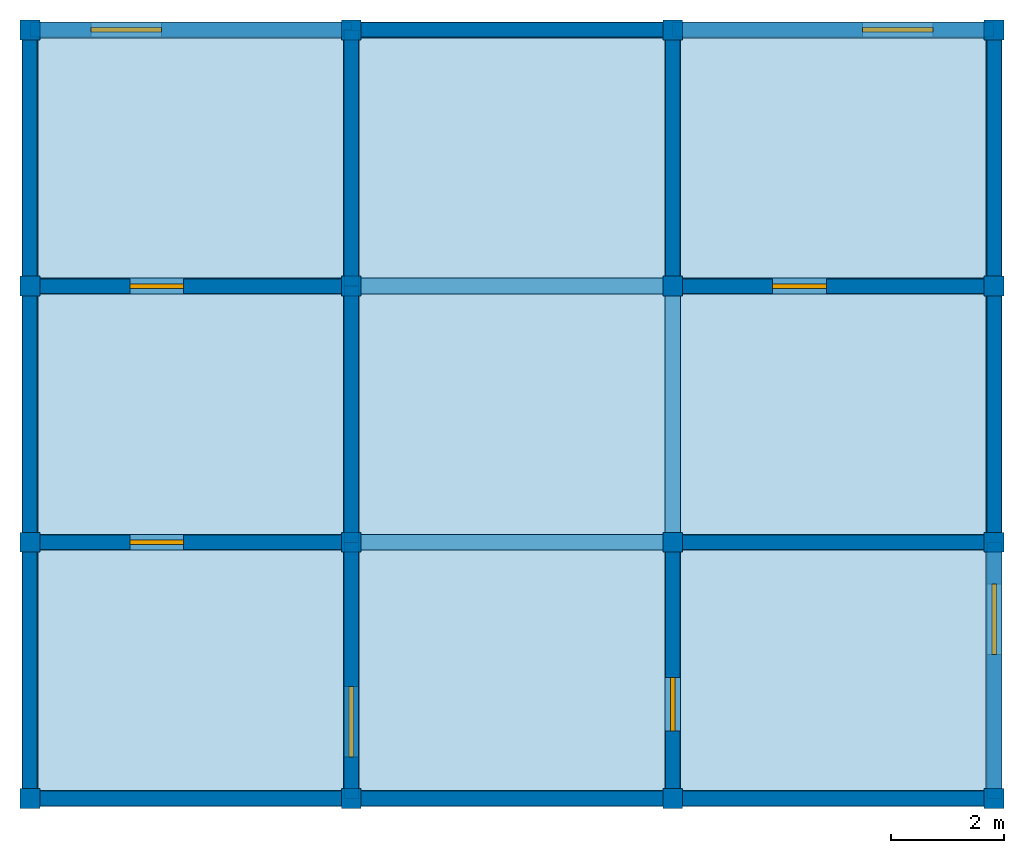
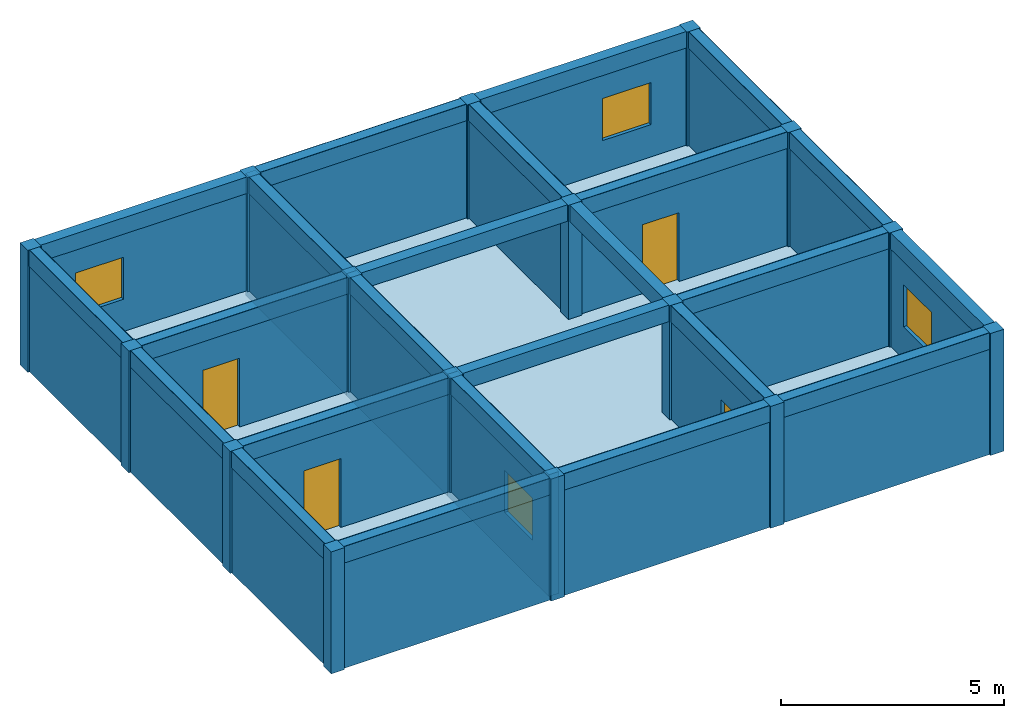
# One storey: 24 beams, 24 walls, 16 columns, 4 doors, 4 windows, 1 slab, 8 openings.
"""IFC4X3 building model written with IfcOpenShell, lengths in metres."""

from ifc_helpers import new_model, si_unit, frame, origin_with_axes, origin_2d, place, context, project, spatial, rectangle, extrude, material, element, fill, save


model = new_model("IFC4X3")

# Units and contexts
model_context = context("Model", 3, precision=1e-05, world=origin_with_axes())
ifc_project = project(units=[si_unit("LENGTHUNIT", "METRE"), si_unit("AREAUNIT", "SQUARE_METRE"), si_unit("VOLUMEUNIT", "CUBIC_METRE")], contexts=[model_context])

# Site, building, storey
site = spatial("IfcSite", under=ifc_project, Name="Valdivia Parcel", CompositionType="ELEMENT")
building = spatial("IfcBuilding", under=site, Name="Strata Block", CompositionType="ELEMENT")
storey = spatial("IfcBuildingStorey", under=building, Name="Level 9", CompositionType="ELEMENT", Elevation=26.68)

# Columns
ifc_material_1 = material(Name="Timber")
column_1_placement = place(None, frame((-8.525, -6.795, 26.683), z_axis=(0.0, 0.0, 1.0), x_axis=(1.0, 0.0, 0.0)))
element("IfcColumn", 1, at=column_1_placement, inside=storey, material=ifc_material_1, Name="Column 9.1", ObjectType="Core Column", PredefinedType="NOTDEFINED", context=model_context, shape_type="SweptSolid", body=[
    extrude(rectangle(XDim=0.35, YDim=0.35, at=origin_2d()), origin_with_axes(), (0.0, 0.0, 1.0), 3.335),
])
column_2_placement = place(None, frame((-8.525, -2.265, 26.683), z_axis=(0.0, 0.0, 1.0), x_axis=(1.0, 0.0, 0.0)))
element("IfcColumn", 2, at=column_2_placement, inside=storey, material=ifc_material_1, Name="Column 9.2", ObjectType="Corner Column", PredefinedType="PILASTER", context=model_context, shape_type="SweptSolid", body=[
    extrude(rectangle(XDim=0.35, YDim=0.35, at=origin_2d()), origin_with_axes(), (0.0, 0.0, 1.0), 3.335),
])
column_3_placement = place(None, frame((-8.525, 2.265, 26.683), z_axis=(0.0, 0.0, 1.0), x_axis=(1.0, 0.0, 0.0)))
element("IfcColumn", 3, at=column_3_placement, inside=storey, material=ifc_material_1, Name="Column 9.3", ObjectType="Corner Column", PredefinedType="COLUMN", context=model_context, shape_type="SweptSolid", body=[
    extrude(rectangle(XDim=0.35, YDim=0.35, at=origin_2d()), origin_with_axes(), (0.0, 0.0, 1.0), 3.335),
])
column_4_placement = place(None, frame((-8.525, 6.795, 26.683), z_axis=(0.0, 0.0, 1.0), x_axis=(1.0, 0.0, 0.0)))
element("IfcColumn", 4, at=column_4_placement, inside=storey, material=ifc_material_1, Name="Column 9.4", ObjectType="Structural Column", PredefinedType="PILASTER", context=model_context, shape_type="SweptSolid", body=[
    extrude(rectangle(XDim=0.35, YDim=0.35, at=origin_2d()), origin_with_axes(), (0.0, 0.0, 1.0), 3.335),
])
column_5_placement = place(None, frame((-2.842, -6.795, 26.683), z_axis=(0.0, 0.0, 1.0), x_axis=(1.0, 0.0, 0.0)))
element("IfcColumn", 5, at=column_5_placement, inside=storey, material=ifc_material_1, Name="Column 9.5", ObjectType="Core Column", PredefinedType="COLUMN", context=model_context, shape_type="SweptSolid", body=[
    extrude(rectangle(XDim=0.35, YDim=0.35, at=origin_2d()), origin_with_axes(), (0.0, 0.0, 1.0), 3.335),
])
column_6_placement = place(None, frame((-2.842, -2.265, 26.683), z_axis=(0.0, 0.0, 1.0), x_axis=(1.0, 0.0, 0.0)))
element("IfcColumn", 6, at=column_6_placement, inside=storey, material=ifc_material_1, Name="Column 9.6", ObjectType="Corner Column", PredefinedType="NOTDEFINED", context=model_context, shape_type="SweptSolid", body=[
    extrude(rectangle(XDim=0.35, YDim=0.35, at=origin_2d()), origin_with_axes(), (0.0, 0.0, 1.0), 3.335),
])
column_7_placement = place(None, frame((-2.842, 2.265, 26.683), z_axis=(0.0, 0.0, 1.0), x_axis=(1.0, 0.0, 0.0)))
element("IfcColumn", 7, at=column_7_placement, inside=storey, material=ifc_material_1, Name="Column 9.7", ObjectType="Core Column", PredefinedType="COLUMN", context=model_context, shape_type="SweptSolid", body=[
    extrude(rectangle(XDim=0.35, YDim=0.35, at=origin_2d()), origin_with_axes(), (0.0, 0.0, 1.0), 3.335),
])
column_8_placement = place(None, frame((-2.842, 6.795, 26.683), z_axis=(0.0, 0.0, 1.0), x_axis=(1.0, 0.0, 0.0)))
element("IfcColumn", 8, at=column_8_placement, inside=storey, material=ifc_material_1, Name="Column 9.8", ObjectType="Facade Column", PredefinedType="COLUMN", context=model_context, shape_type="SweptSolid", body=[
    extrude(rectangle(XDim=0.35, YDim=0.35, at=origin_2d()), origin_with_axes(), (0.0, 0.0, 1.0), 3.335),
])
column_9_placement = place(None, frame((2.841, -6.795, 26.683), z_axis=(0.0, 0.0, 1.0), x_axis=(1.0, 0.0, 0.0)))
element("IfcColumn", 9, at=column_9_placement, inside=storey, material=ifc_material_1, Name="Column 9.9", ObjectType="Structural Column", PredefinedType="NOTDEFINED", context=model_context, shape_type="SweptSolid", body=[
    extrude(rectangle(XDim=0.35, YDim=0.35, at=origin_2d()), origin_with_axes(), (0.0, 0.0, 1.0), 3.335),
])
column_10_placement = place(None, frame((2.841, -2.265, 26.683), z_axis=(0.0, 0.0, 1.0), x_axis=(1.0, 0.0, 0.0)))
element("IfcColumn", 10, at=column_10_placement, inside=storey, material=ifc_material_1, Name="Column 9.10", ObjectType="Structural Column", PredefinedType="PILASTER", context=model_context, shape_type="SweptSolid", body=[
    extrude(rectangle(XDim=0.35, YDim=0.35, at=origin_2d()), origin_with_axes(), (0.0, 0.0, 1.0), 3.335),
])
column_11_placement = place(None, frame((2.841, 2.265, 26.683), z_axis=(0.0, 0.0, 1.0), x_axis=(1.0, 0.0, 0.0)))
element("IfcColumn", 11, at=column_11_placement, inside=storey, material=ifc_material_1, Name="Column 9.11", ObjectType="Facade Column", PredefinedType="USERDEFINED", context=model_context, shape_type="SweptSolid", body=[
    extrude(rectangle(XDim=0.35, YDim=0.35, at=origin_2d()), origin_with_axes(), (0.0, 0.0, 1.0), 3.335),
])
column_12_placement = place(None, frame((2.841, 6.795, 26.683), z_axis=(0.0, 0.0, 1.0), x_axis=(1.0, 0.0, 0.0)))
element("IfcColumn", 12, at=column_12_placement, inside=storey, material=ifc_material_1, Name="Column 9.12", ObjectType="Facade Column", PredefinedType="COLUMN", context=model_context, shape_type="SweptSolid", body=[
    extrude(rectangle(XDim=0.35, YDim=0.35, at=origin_2d()), origin_with_axes(), (0.0, 0.0, 1.0), 3.335),
])
column_13_placement = place(None, frame((8.524, -6.795, 26.683), z_axis=(0.0, 0.0, 1.0), x_axis=(1.0, 0.0, 0.0)))
element("IfcColumn", 13, at=column_13_placement, inside=storey, material=ifc_material_1, Name="Column 9.13", ObjectType="Facade Column", PredefinedType="USERDEFINED", context=model_context, shape_type="SweptSolid", body=[
    extrude(rectangle(XDim=0.35, YDim=0.35, at=origin_2d()), origin_with_axes(), (0.0, 0.0, 1.0), 3.335),
])
column_14_placement = place(None, frame((8.524, -2.265, 26.683), z_axis=(0.0, 0.0, 1.0), x_axis=(1.0, 0.0, 0.0)))
element("IfcColumn", 14, at=column_14_placement, inside=storey, material=ifc_material_1, Name="Column 9.14", ObjectType="Structural Column", PredefinedType="USERDEFINED", context=model_context, shape_type="SweptSolid", body=[
    extrude(rectangle(XDim=0.35, YDim=0.35, at=origin_2d()), origin_with_axes(), (0.0, 0.0, 1.0), 3.335),
])
for number, where, z_axis, x_axis, name in (
    (15, (8.524, 2.265, 26.683), (0.0, 0.0, 1.0), (1.0, 0.0, 0.0), "Column 9.15"),
    (16, (8.524, 6.795, 26.683), (0.0, 0.0, 1.0), (1.0, 0.0, 0.0), "Column 9.16"),
):
    element("IfcColumn", number, at=place(None, frame(where, z_axis=z_axis, x_axis=x_axis)), inside=storey, material=ifc_material_1, Name=name, ObjectType="Facade Column", PredefinedType="NOTDEFINED", context=model_context, shape_type="SweptSolid", body=[
        extrude(rectangle(XDim=0.35, YDim=0.35, at=origin_2d()), origin_with_axes(), (0.0, 0.0, 1.0), 3.335),
    ])

# Beams
ifc_material_2 = material(Name="Concrete")
beam_1_placement = place(None, frame((-5.684, -6.795, 29.568), z_axis=(0.0, 0.0, 1.0), x_axis=(1.0, 0.0, 0.0)))
element("IfcBeam", 17, at=beam_1_placement, inside=storey, material=ifc_material_2, Name="Beam 9.1", ObjectType="Secondary Beam", PredefinedType="T_BEAM", context=model_context, shape_type="SweptSolid", body=[
    extrude(rectangle(XDim=5.683, YDim=0.28, at=origin_2d()), origin_with_axes(), (0.0, 0.0, 1.0), 0.45),
])
beam_2_placement = place(None, frame((0.0, -6.795, 29.568), z_axis=(0.0, 0.0, 1.0), x_axis=(1.0, 0.0, 0.0)))
element("IfcBeam", 18, at=beam_2_placement, inside=storey, material=ifc_material_2, Name="Beam 9.2", ObjectType="Ridge Beam", PredefinedType="JOIST", context=model_context, shape_type="SweptSolid", body=[
    extrude(rectangle(XDim=5.683, YDim=0.28, at=origin_2d()), origin_with_axes(), (0.0, 0.0, 1.0), 0.45),
])
beam_3_placement = place(None, frame((5.682, -6.795, 29.568), z_axis=(0.0, 0.0, 1.0), x_axis=(1.0, 0.0, 0.0)))
element("IfcBeam", 19, at=beam_3_placement, inside=storey, material=ifc_material_2, Name="Beam 9.3", ObjectType="Rafter Beam", PredefinedType="BEAM", context=model_context, shape_type="SweptSolid", body=[
    extrude(rectangle(XDim=5.683, YDim=0.28, at=origin_2d()), origin_with_axes(), (0.0, 0.0, 1.0), 0.45),
])
beam_4_placement = place(None, frame((-5.684, -2.265, 29.568), z_axis=(0.0, 0.0, 1.0), x_axis=(1.0, 0.0, 0.0)))
element("IfcBeam", 20, at=beam_4_placement, inside=storey, material=ifc_material_2, Name="Beam 9.4", ObjectType="Primary Beam", PredefinedType="USERDEFINED", context=model_context, shape_type="SweptSolid", body=[
    extrude(rectangle(XDim=5.683, YDim=0.28, at=origin_2d()), origin_with_axes(), (0.0, 0.0, 1.0), 0.45),
])
beam_5_placement = place(None, frame((0.0, -2.265, 29.568), z_axis=(0.0, 0.0, 1.0), x_axis=(1.0, 0.0, 0.0)))
element("IfcBeam", 21, at=beam_5_placement, inside=storey, material=ifc_material_2, Name="Beam 9.5", ObjectType="Transfer Beam", PredefinedType="SPANDREL", context=model_context, shape_type="SweptSolid", body=[
    extrude(rectangle(XDim=5.683, YDim=0.28, at=origin_2d()), origin_with_axes(), (0.0, 0.0, 1.0), 0.45),
])
beam_6_placement = place(None, frame((5.682, -2.265, 29.568), z_axis=(0.0, 0.0, 1.0), x_axis=(1.0, 0.0, 0.0)))
element("IfcBeam", 22, at=beam_6_placement, inside=storey, material=ifc_material_2, Name="Beam 9.6", ObjectType="Transfer Beam", PredefinedType="USERDEFINED", context=model_context, shape_type="SweptSolid", body=[
    extrude(rectangle(XDim=5.683, YDim=0.28, at=origin_2d()), origin_with_axes(), (0.0, 0.0, 1.0), 0.45),
])
beam_7_placement = place(None, frame((-5.684, 2.265, 29.568), z_axis=(0.0, 0.0, 1.0), x_axis=(1.0, 0.0, 0.0)))
element("IfcBeam", 23, at=beam_7_placement, inside=storey, material=ifc_material_2, Name="Beam 9.7", ObjectType="Rafter Beam", PredefinedType="BEAM", context=model_context, shape_type="SweptSolid", body=[
    extrude(rectangle(XDim=5.683, YDim=0.28, at=origin_2d()), origin_with_axes(), (0.0, 0.0, 1.0), 0.45),
])
beam_8_placement = place(None, frame((0.0, 2.265, 29.568), z_axis=(0.0, 0.0, 1.0), x_axis=(1.0, 0.0, 0.0)))
element("IfcBeam", 24, at=beam_8_placement, inside=storey, material=ifc_material_2, Name="Beam 9.8", ObjectType="Secondary Beam", PredefinedType="LINTEL", context=model_context, shape_type="SweptSolid", body=[
    extrude(rectangle(XDim=5.683, YDim=0.28, at=origin_2d()), origin_with_axes(), (0.0, 0.0, 1.0), 0.45),
])
beam_9_placement = place(None, frame((5.682, 2.265, 29.568), z_axis=(0.0, 0.0, 1.0), x_axis=(1.0, 0.0, 0.0)))
element("IfcBeam", 25, at=beam_9_placement, inside=storey, material=ifc_material_2, Name="Beam 9.9", ObjectType="Transfer Beam", PredefinedType="T_BEAM", context=model_context, shape_type="SweptSolid", body=[
    extrude(rectangle(XDim=5.683, YDim=0.28, at=origin_2d()), origin_with_axes(), (0.0, 0.0, 1.0), 0.45),
])
beam_10_placement = place(None, frame((-5.684, 6.795, 29.568), z_axis=(0.0, 0.0, 1.0), x_axis=(1.0, 0.0, 0.0)))
element("IfcBeam", 26, at=beam_10_placement, inside=storey, material=ifc_material_2, Name="Beam 9.10", ObjectType="Ridge Beam", PredefinedType="T_BEAM", context=model_context, shape_type="SweptSolid", body=[
    extrude(rectangle(XDim=5.683, YDim=0.28, at=origin_2d()), origin_with_axes(), (0.0, 0.0, 1.0), 0.45),
])
beam_11_placement = place(None, frame((0.0, 6.795, 29.568), z_axis=(0.0, 0.0, 1.0), x_axis=(1.0, 0.0, 0.0)))
element("IfcBeam", 27, at=beam_11_placement, inside=storey, material=ifc_material_2, Name="Beam 9.11", ObjectType="Transfer Beam", PredefinedType="JOIST", context=model_context, shape_type="SweptSolid", body=[
    extrude(rectangle(XDim=5.683, YDim=0.28, at=origin_2d()), origin_with_axes(), (0.0, 0.0, 1.0), 0.45),
])
beam_12_placement = place(None, frame((5.682, 6.795, 29.568), z_axis=(0.0, 0.0, 1.0), x_axis=(1.0, 0.0, 0.0)))
element("IfcBeam", 28, at=beam_12_placement, inside=storey, material=ifc_material_2, Name="Beam 9.12", ObjectType="Primary Beam", PredefinedType="HOLLOWCORE", context=model_context, shape_type="SweptSolid", body=[
    extrude(rectangle(XDim=5.683, YDim=0.28, at=origin_2d()), origin_with_axes(), (0.0, 0.0, 1.0), 0.45),
])
beam_13_placement = place(None, frame((-8.525, -4.53, 29.568), z_axis=(0.0, 0.0, 1.0), x_axis=(0.0, 1.0, 0.0)))
element("IfcBeam", 29, at=beam_13_placement, inside=storey, material=ifc_material_2, Name="Beam 9.13", ObjectType="Ridge Beam", PredefinedType="LINTEL", context=model_context, shape_type="SweptSolid", body=[
    extrude(rectangle(XDim=4.53, YDim=0.28, at=origin_2d()), origin_with_axes(), (0.0, 0.0, 1.0), 0.45),
])
beam_14_placement = place(None, frame((-8.525, 0.0, 29.568), z_axis=(0.0, 0.0, 1.0), x_axis=(0.0, 1.0, 0.0)))
element("IfcBeam", 30, at=beam_14_placement, inside=storey, material=ifc_material_2, Name="Beam 9.14", ObjectType="Ridge Beam", PredefinedType="NOTDEFINED", context=model_context, shape_type="SweptSolid", body=[
    extrude(rectangle(XDim=4.53, YDim=0.28, at=origin_2d()), origin_with_axes(), (0.0, 0.0, 1.0), 0.45),
])
beam_15_placement = place(None, frame((-8.525, 4.53, 29.568), z_axis=(0.0, 0.0, 1.0), x_axis=(0.0, 1.0, 0.0)))
element("IfcBeam", 31, at=beam_15_placement, inside=storey, material=ifc_material_2, Name="Beam 9.15", ObjectType="Ridge Beam", PredefinedType="JOIST", context=model_context, shape_type="SweptSolid", body=[
    extrude(rectangle(XDim=4.53, YDim=0.28, at=origin_2d()), origin_with_axes(), (0.0, 0.0, 1.0), 0.45),
])
beam_16_placement = place(None, frame((-2.842, -4.53, 29.568), z_axis=(0.0, 0.0, 1.0), x_axis=(0.0, 1.0, 0.0)))
element("IfcBeam", 32, at=beam_16_placement, inside=storey, material=ifc_material_2, Name="Beam 9.16", ObjectType="Transfer Beam", PredefinedType="HOLLOWCORE", context=model_context, shape_type="SweptSolid", body=[
    extrude(rectangle(XDim=4.53, YDim=0.28, at=origin_2d()), origin_with_axes(), (0.0, 0.0, 1.0), 0.45),
])
beam_17_placement = place(None, frame((-2.842, 0.0, 29.568), z_axis=(0.0, 0.0, 1.0), x_axis=(0.0, 1.0, 0.0)))
element("IfcBeam", 33, at=beam_17_placement, inside=storey, material=ifc_material_2, Name="Beam 9.17", ObjectType="Rafter Beam", PredefinedType="NOTDEFINED", context=model_context, shape_type="SweptSolid", body=[
    extrude(rectangle(XDim=4.53, YDim=0.28, at=origin_2d()), origin_with_axes(), (0.0, 0.0, 1.0), 0.45),
])
beam_18_placement = place(None, frame((-2.842, 4.53, 29.568), z_axis=(0.0, 0.0, 1.0), x_axis=(0.0, 1.0, 0.0)))
element("IfcBeam", 34, at=beam_18_placement, inside=storey, material=ifc_material_2, Name="Beam 9.18", ObjectType="Rafter Beam", PredefinedType="USERDEFINED", context=model_context, shape_type="SweptSolid", body=[
    extrude(rectangle(XDim=4.53, YDim=0.28, at=origin_2d()), origin_with_axes(), (0.0, 0.0, 1.0), 0.45),
])
beam_19_placement = place(None, frame((2.841, -4.53, 29.568), z_axis=(0.0, 0.0, 1.0), x_axis=(0.0, 1.0, 0.0)))
element("IfcBeam", 35, at=beam_19_placement, inside=storey, material=ifc_material_2, Name="Beam 9.19", ObjectType="Ridge Beam", PredefinedType="BEAM", context=model_context, shape_type="SweptSolid", body=[
    extrude(rectangle(XDim=4.53, YDim=0.28, at=origin_2d()), origin_with_axes(), (0.0, 0.0, 1.0), 0.45),
])
beam_20_placement = place(None, frame((2.841, 0.0, 29.568), z_axis=(0.0, 0.0, 1.0), x_axis=(0.0, 1.0, 0.0)))
element("IfcBeam", 36, at=beam_20_placement, inside=storey, material=ifc_material_2, Name="Beam 9.20", ObjectType="Transfer Beam", PredefinedType="LINTEL", context=model_context, shape_type="SweptSolid", body=[
    extrude(rectangle(XDim=4.53, YDim=0.28, at=origin_2d()), origin_with_axes(), (0.0, 0.0, 1.0), 0.45),
])
beam_21_placement = place(None, frame((2.841, 4.53, 29.568), z_axis=(0.0, 0.0, 1.0), x_axis=(0.0, 1.0, 0.0)))
element("IfcBeam", 37, at=beam_21_placement, inside=storey, material=ifc_material_2, Name="Beam 9.21", ObjectType="Rafter Beam", PredefinedType="T_BEAM", context=model_context, shape_type="SweptSolid", body=[
    extrude(rectangle(XDim=4.53, YDim=0.28, at=origin_2d()), origin_with_axes(), (0.0, 0.0, 1.0), 0.45),
])
beam_22_placement = place(None, frame((8.524, -4.53, 29.568), z_axis=(0.0, 0.0, 1.0), x_axis=(0.0, 1.0, 0.0)))
element("IfcBeam", 38, at=beam_22_placement, inside=storey, material=ifc_material_2, Name="Beam 9.22", ObjectType="Rafter Beam", PredefinedType="BEAM", context=model_context, shape_type="SweptSolid", body=[
    extrude(rectangle(XDim=4.53, YDim=0.28, at=origin_2d()), origin_with_axes(), (0.0, 0.0, 1.0), 0.45),
])
beam_23_placement = place(None, frame((8.524, 0.0, 29.568), z_axis=(0.0, 0.0, 1.0), x_axis=(0.0, 1.0, 0.0)))
element("IfcBeam", 39, at=beam_23_placement, inside=storey, material=ifc_material_2, Name="Beam 9.23", ObjectType="Transfer Beam", PredefinedType="T_BEAM", context=model_context, shape_type="SweptSolid", body=[
    extrude(rectangle(XDim=4.53, YDim=0.28, at=origin_2d()), origin_with_axes(), (0.0, 0.0, 1.0), 0.45),
])
beam_24_placement = place(None, frame((8.524, 4.53, 29.568), z_axis=(0.0, 0.0, 1.0), x_axis=(0.0, 1.0, 0.0)))
element("IfcBeam", 40, at=beam_24_placement, inside=storey, material=ifc_material_2, Name="Beam 9.24", ObjectType="Secondary Beam", PredefinedType="NOTDEFINED", context=model_context, shape_type="SweptSolid", body=[
    extrude(rectangle(XDim=4.53, YDim=0.28, at=origin_2d()), origin_with_axes(), (0.0, 0.0, 1.0), 0.45),
])

# Slab
ifc_material_3 = material(Name="Composite")
slab_placement = place(None, frame((0.0, 0.0, 26.68), z_axis=(0.0, 0.0, 1.0), x_axis=(1.0, 0.0, 0.0)))
element("IfcSlab", 41, at=slab_placement, inside=storey, material=ifc_material_3, Name="Slab 9", ObjectType="Floor Slab", PredefinedType="FLOOR", context=model_context, shape_type="SweptSolid", body=[
    extrude(rectangle(XDim=17.05, YDim=13.59, at=origin_2d()), origin_with_axes(), (0.0, 0.0, 1.0), 0.22),
])

# Wall, opening, door
ifc_material_4 = material(Name="Brick")
wall_1_placement = place(None, frame((-5.684, -2.265, 26.683), z_axis=(0.0, 0.0, 1.0), x_axis=(1.0, 0.0, 0.0)))
wall_1 = element("IfcWall", 42, at=wall_1_placement, inside=storey, material=ifc_material_4, Name="Wall 9.1", ObjectType="Corridor Partition", PredefinedType="ELEMENTEDWALL", context=model_context, shape_type="SweptSolid", body=[
    extrude(rectangle(XDim=5.683, YDim=0.258922, at=origin_2d()), origin_with_axes(), (0.0, 0.0, 1.0), 3.335),
])
opening_1_placement = place(None, frame((-6.284, -2.265, 26.683), z_axis=(0.0, 0.0, 1.0), x_axis=(1.0, 0.0, 0.0)))
opening_1 = element("IfcOpeningElement", 43, at=opening_1_placement, cuts=wall_1, Name="Door opening 9.1", ObjectType="Door Opening", PredefinedType="OPENING", context=model_context, shape_type="SweptSolid", body=[
    extrude(rectangle(XDim=0.95, YDim=0.338922, at=origin_2d()), origin_with_axes(), (0.0, 0.0, 1.0), 2.1),
])
door_1_placement = place(None, frame((-6.284, -2.265, 26.683), z_axis=(0.0, 0.0, 1.0), x_axis=(1.0, 0.0, 0.0)))
door_1 = element("IfcDoor", 44, at=door_1_placement, inside=storey, Name="Door 9.1", ObjectType="Fire Door", OverallHeight=2.1, OverallWidth=0.95, context=model_context, shape_type="SweptSolid", body=[
    extrude(rectangle(XDim=0.95, YDim=0.08, at=origin_2d()), origin_with_axes(), (0.0, 0.0, 1.0), 2.1),
])
fill(opening_1, door_1)

# Wall, opening, window
ifc_material_5 = material(Name="Gypsum")
wall_2_placement = place(None, frame((-2.8425, -4.53, 26.683), z_axis=(0.0, 0.0, 1.0), x_axis=(0.0, 1.0, 0.0)))
wall_2 = element("IfcWall", 45, at=wall_2_placement, inside=storey, material=ifc_material_5, Name="Wall 9.2", ObjectType="Exterior Wall", PredefinedType="PARTITIONING", context=model_context, shape_type="SweptSolid", body=[
    extrude(rectangle(XDim=4.53, YDim=0.258922, at=origin_2d()), origin_with_axes(), (0.0, 0.0, 1.0), 3.335),
])
opening_2_placement = place(None, frame((-2.843, -5.436, 27.783), z_axis=(0.0, 0.0, 1.0), x_axis=(0.0, 1.0, 0.0)))
opening_2 = element("IfcOpeningElement", 46, at=opening_2_placement, cuts=wall_2, Name="Window opening 9.2", ObjectType="Window Opening", PredefinedType="OPENING", context=model_context, shape_type="SweptSolid", body=[
    extrude(rectangle(XDim=1.25, YDim=0.338922, at=origin_2d()), origin_with_axes(), (0.0, 0.0, 1.0), 1.15),
])
window_1_placement = place(None, frame((-2.843, -5.436, 27.783), z_axis=(0.0, 0.0, 1.0), x_axis=(0.0, 1.0, 0.0)))
window_1 = element("IfcWindow", 47, at=window_1_placement, inside=storey, Name="Window 9.2", ObjectType="Curtain Window", OverallHeight=1.15, OverallWidth=1.25, context=model_context, shape_type="SweptSolid", body=[
    extrude(rectangle(XDim=1.25, YDim=0.08, at=origin_2d()), origin_with_axes(), (0.0, 0.0, 1.0), 1.15),
])
fill(opening_2, window_1)

# Walls
wall_3_placement = place(None, frame((-5.684, -6.795, 26.683), z_axis=(0.0, 0.0, 1.0), x_axis=(1.0, 0.0, 0.0)))
element("IfcWall", 48, at=wall_3_placement, inside=storey, material=ifc_material_5, Name="Wall 9.3", ObjectType="Exterior Wall", PredefinedType="PLUMBINGWALL", context=model_context, shape_type="SweptSolid", body=[
    extrude(rectangle(XDim=5.683, YDim=0.258922, at=origin_2d()), origin_with_axes(), (0.0, 0.0, 1.0), 3.335),
])
ifc_material_6 = material(Name="CLT")
wall_4_placement = place(None, frame((-8.5255, -4.53, 26.683), z_axis=(0.0, 0.0, 1.0), x_axis=(0.0, 1.0, 0.0)))
element("IfcWall", 49, at=wall_4_placement, inside=storey, material=ifc_material_6, Name="Wall 9.4", ObjectType="Exterior Wall", PredefinedType="PLUMBINGWALL", context=model_context, shape_type="SweptSolid", body=[
    extrude(rectangle(XDim=4.53, YDim=0.258922, at=origin_2d()), origin_with_axes(), (0.0, 0.0, 1.0), 3.335),
])

# Wall, opening, door
wall_5_placement = place(None, frame((2.8405, -4.53, 26.683), z_axis=(0.0, 0.0, 1.0), x_axis=(0.0, 1.0, 0.0)))
wall_5 = element("IfcWall", 50, at=wall_5_placement, inside=storey, material=ifc_material_4, Name="Wall 9.5", ObjectType="Corridor Partition", PredefinedType="NOTDEFINED", context=model_context, shape_type="SweptSolid", body=[
    extrude(rectangle(XDim=4.53, YDim=0.258922, at=origin_2d()), origin_with_axes(), (0.0, 0.0, 1.0), 3.335),
])
opening_3_placement = place(None, frame((2.841, -5.13, 26.683), z_axis=(0.0, 0.0, 1.0), x_axis=(0.0, 1.0, 0.0)))
opening_3 = element("IfcOpeningElement", 51, at=opening_3_placement, cuts=wall_5, Name="Door opening 9.3", ObjectType="Door Opening", PredefinedType="OPENING", context=model_context, shape_type="SweptSolid", body=[
    extrude(rectangle(XDim=0.95, YDim=0.338922, at=origin_2d()), origin_with_axes(), (0.0, 0.0, 1.0), 2.1),
])
door_2_placement = place(None, frame((2.841, -5.13, 26.683), z_axis=(0.0, 0.0, 1.0), x_axis=(0.0, 1.0, 0.0)))
door_2 = element("IfcDoor", 52, at=door_2_placement, inside=storey, Name="Door 9.3", ObjectType="Entry Door", OverallHeight=2.1, OverallWidth=0.95, context=model_context, shape_type="SweptSolid", body=[
    extrude(rectangle(XDim=0.95, YDim=0.08, at=origin_2d()), origin_with_axes(), (0.0, 0.0, 1.0), 2.1),
])
fill(opening_3, door_2)

# Walls
wall_6_placement = place(None, frame((-0.001, -6.795, 26.683), z_axis=(0.0, 0.0, 1.0), x_axis=(1.0, 0.0, 0.0)))
element("IfcWall", 53, at=wall_6_placement, inside=storey, material=ifc_material_2, Name="Wall 9.6", ObjectType="Exterior Wall", PredefinedType="NOTDEFINED", context=model_context, shape_type="SweptSolid", body=[
    extrude(rectangle(XDim=5.683, YDim=0.258922, at=origin_2d()), origin_with_axes(), (0.0, 0.0, 1.0), 3.335),
])
wall_7_placement = place(None, frame((-2.8425, -4.53, 26.683), z_axis=(0.0, 0.0, 1.0), x_axis=(0.0, 1.0, 0.0)))
element("IfcWall", 54, at=wall_7_placement, inside=storey, material=ifc_material_6, Name="Wall 9.7", ObjectType="Exterior Wall", PredefinedType="PARTITIONING", context=model_context, shape_type="SweptSolid", body=[
    extrude(rectangle(XDim=4.53, YDim=0.258922, at=origin_2d()), origin_with_axes(), (0.0, 0.0, 1.0), 3.335),
])
wall_8_placement = place(None, frame((5.682, -2.265, 26.683), z_axis=(0.0, 0.0, 1.0), x_axis=(1.0, 0.0, 0.0)))
element("IfcWall", 55, at=wall_8_placement, inside=storey, material=ifc_material_6, Name="Wall 9.8", ObjectType="Corridor Partition", PredefinedType="NOTDEFINED", context=model_context, shape_type="SweptSolid", body=[
    extrude(rectangle(XDim=5.683, YDim=0.258922, at=origin_2d()), origin_with_axes(), (0.0, 0.0, 1.0), 3.335),
])

# Wall, opening, window
wall_9_placement = place(None, frame((8.5235, -4.53, 26.683), z_axis=(0.0, 0.0, 1.0), x_axis=(0.0, 1.0, 0.0)))
wall_9 = element("IfcWall", 56, at=wall_9_placement, inside=storey, material=ifc_material_6, Name="Wall 9.9", ObjectType="Exterior Wall", PredefinedType="PARTITIONING", context=model_context, shape_type="SweptSolid", body=[
    extrude(rectangle(XDim=4.53, YDim=0.258922, at=origin_2d()), origin_with_axes(), (0.0, 0.0, 1.0), 3.335),
])
opening_4_placement = place(None, frame((8.524, -3.624, 27.783), z_axis=(0.0, 0.0, 1.0), x_axis=(0.0, 1.0, 0.0)))
opening_4 = element("IfcOpeningElement", 57, at=opening_4_placement, cuts=wall_9, Name="Window opening 9.4", ObjectType="Window Opening", PredefinedType="OPENING", context=model_context, shape_type="SweptSolid", body=[
    extrude(rectangle(XDim=1.25, YDim=0.338922, at=origin_2d()), origin_with_axes(), (0.0, 0.0, 1.0), 1.15),
])
window_2_placement = place(None, frame((8.524, -3.624, 27.783), z_axis=(0.0, 0.0, 1.0), x_axis=(0.0, 1.0, 0.0)))
window_2 = element("IfcWindow", 58, at=window_2_placement, inside=storey, Name="Window 9.4", ObjectType="Fixed Window", OverallHeight=1.15, OverallWidth=1.25, context=model_context, shape_type="SweptSolid", body=[
    extrude(rectangle(XDim=1.25, YDim=0.08, at=origin_2d()), origin_with_axes(), (0.0, 0.0, 1.0), 1.15),
])
fill(opening_4, window_2)

# Wall
wall_10_placement = place(None, frame((5.682, -6.795, 26.683), z_axis=(0.0, 0.0, 1.0), x_axis=(1.0, 0.0, 0.0)))
element("IfcWall", 59, at=wall_10_placement, inside=storey, material=ifc_material_5, Name="Wall 9.10", ObjectType="Exterior Wall", PredefinedType="STANDARD", context=model_context, shape_type="SweptSolid", body=[
    extrude(rectangle(XDim=5.683, YDim=0.258922, at=origin_2d()), origin_with_axes(), (0.0, 0.0, 1.0), 3.335),
])

# Wall, opening, door
wall_11_placement = place(None, frame((-5.684, 2.265, 26.683), z_axis=(0.0, 0.0, 1.0), x_axis=(1.0, 0.0, 0.0)))
wall_11 = element("IfcWall", 60, at=wall_11_placement, inside=storey, material=ifc_material_5, Name="Wall 9.11", ObjectType="Corridor Partition", PredefinedType="SOLIDWALL", context=model_context, shape_type="SweptSolid", body=[
    extrude(rectangle(XDim=5.683, YDim=0.258922, at=origin_2d()), origin_with_axes(), (0.0, 0.0, 1.0), 3.335),
])
opening_5_placement = place(None, frame((-6.284, 2.265, 26.683), z_axis=(0.0, 0.0, 1.0), x_axis=(1.0, 0.0, 0.0)))
opening_5 = element("IfcOpeningElement", 61, at=opening_5_placement, cuts=wall_11, Name="Door opening 9.5", ObjectType="Door Opening", PredefinedType="OPENING", context=model_context, shape_type="SweptSolid", body=[
    extrude(rectangle(XDim=0.95, YDim=0.338922, at=origin_2d()), origin_with_axes(), (0.0, 0.0, 1.0), 2.1),
])
door_3_placement = place(None, frame((-6.284, 2.265, 26.683), z_axis=(0.0, 0.0, 1.0), x_axis=(1.0, 0.0, 0.0)))
door_3 = element("IfcDoor", 62, at=door_3_placement, inside=storey, Name="Door 9.5", ObjectType="Fire Door", OverallHeight=2.1, OverallWidth=0.95, context=model_context, shape_type="SweptSolid", body=[
    extrude(rectangle(XDim=0.95, YDim=0.08, at=origin_2d()), origin_with_axes(), (0.0, 0.0, 1.0), 2.1),
])
fill(opening_5, door_3)

# Walls
wall_12_placement = place(None, frame((-2.8425, 0.0, 26.683), z_axis=(0.0, 0.0, 1.0), x_axis=(0.0, 1.0, 0.0)))
element("IfcWall", 63, at=wall_12_placement, inside=storey, material=ifc_material_4, Name="Wall 9.12", ObjectType="Exterior Wall", PredefinedType="PLUMBINGWALL", context=model_context, shape_type="SweptSolid", body=[
    extrude(rectangle(XDim=4.53, YDim=0.258922, at=origin_2d()), origin_with_axes(), (0.0, 0.0, 1.0), 3.335),
])
for number, where, z_axis, x_axis, name in (
    (64, (-8.5255, 0.0, 26.683), (0.0, 0.0, 1.0), (0.0, 1.0, 0.0), "Wall 9.13"),
    (65, (-2.8425, 0.0, 26.683), (0.0, 0.0, 1.0), (0.0, 1.0, 0.0), "Wall 9.14"),
):
    element("IfcWall", number, at=place(None, frame(where, z_axis=z_axis, x_axis=x_axis)), inside=storey, material=ifc_material_4, Name=name, ObjectType="Exterior Wall", PredefinedType="PARAPET", context=model_context, shape_type="SweptSolid", body=[
        extrude(rectangle(XDim=4.53, YDim=0.258922, at=origin_2d()), origin_with_axes(), (0.0, 0.0, 1.0), 3.335),
    ])

# Wall, opening, door
wall_13_placement = place(None, frame((5.682, 2.265, 26.683), z_axis=(0.0, 0.0, 1.0), x_axis=(1.0, 0.0, 0.0)))
wall_13 = element("IfcWall", 66, at=wall_13_placement, inside=storey, material=ifc_material_6, Name="Wall 9.15", ObjectType="Corridor Partition", PredefinedType="PARAPET", context=model_context, shape_type="SweptSolid", body=[
    extrude(rectangle(XDim=5.683, YDim=0.258922, at=origin_2d()), origin_with_axes(), (0.0, 0.0, 1.0), 3.335),
])
opening_6_placement = place(None, frame((5.082, 2.265, 26.683), z_axis=(0.0, 0.0, 1.0), x_axis=(1.0, 0.0, 0.0)))
opening_6 = element("IfcOpeningElement", 67, at=opening_6_placement, cuts=wall_13, Name="Door opening 9.7", ObjectType="Door Opening", PredefinedType="OPENING", context=model_context, shape_type="SweptSolid", body=[
    extrude(rectangle(XDim=0.95, YDim=0.338922, at=origin_2d()), origin_with_axes(), (0.0, 0.0, 1.0), 2.1),
])
door_4_placement = place(None, frame((5.082, 2.265, 26.683), z_axis=(0.0, 0.0, 1.0), x_axis=(1.0, 0.0, 0.0)))
door_4 = element("IfcDoor", 68, at=door_4_placement, inside=storey, Name="Door 9.7", ObjectType="Fire Door", OverallHeight=2.1, OverallWidth=0.95, context=model_context, shape_type="SweptSolid", body=[
    extrude(rectangle(XDim=0.95, YDim=0.08, at=origin_2d()), origin_with_axes(), (0.0, 0.0, 1.0), 2.1),
])
fill(opening_6, door_4)

# Wall
wall_14_placement = place(None, frame((8.5235, 0.0, 26.683), z_axis=(0.0, 0.0, 1.0), x_axis=(0.0, 1.0, 0.0)))
element("IfcWall", 69, at=wall_14_placement, inside=storey, material=ifc_material_5, Name="Wall 9.16", ObjectType="Exterior Wall", PredefinedType="POLYGONAL", context=model_context, shape_type="SweptSolid", body=[
    extrude(rectangle(XDim=4.53, YDim=0.258922, at=origin_2d()), origin_with_axes(), (0.0, 0.0, 1.0), 3.335),
])

# Wall, opening, window
wall_15_placement = place(None, frame((-5.684, 6.795, 26.683), z_axis=(0.0, 0.0, 1.0), x_axis=(1.0, 0.0, 0.0)))
wall_15 = element("IfcWall", 70, at=wall_15_placement, inside=storey, material=ifc_material_6, Name="Wall 9.17", ObjectType="Exterior Wall", PredefinedType="POLYGONAL", context=model_context, shape_type="SweptSolid", body=[
    extrude(rectangle(XDim=5.683, YDim=0.258922, at=origin_2d()), origin_with_axes(), (0.0, 0.0, 1.0), 3.335),
])
opening_7_placement = place(None, frame((-6.821, 6.795, 27.783), z_axis=(0.0, 0.0, 1.0), x_axis=(1.0, 0.0, 0.0)))
opening_7 = element("IfcOpeningElement", 71, at=opening_7_placement, cuts=wall_15, Name="Window opening 9.6", ObjectType="Window Opening", PredefinedType="OPENING", context=model_context, shape_type="SweptSolid", body=[
    extrude(rectangle(XDim=1.25, YDim=0.338922, at=origin_2d()), origin_with_axes(), (0.0, 0.0, 1.0), 1.15),
])
window_3_placement = place(None, frame((-6.821, 6.795, 27.783), z_axis=(0.0, 0.0, 1.0), x_axis=(1.0, 0.0, 0.0)))
window_3 = element("IfcWindow", 72, at=window_3_placement, inside=storey, Name="Window 9.6", ObjectType="Fixed Window", OverallHeight=1.15, OverallWidth=1.25, context=model_context, shape_type="SweptSolid", body=[
    extrude(rectangle(XDim=1.25, YDim=0.08, at=origin_2d()), origin_with_axes(), (0.0, 0.0, 1.0), 1.15),
])
fill(opening_7, window_3)

# Walls
wall_16_placement = place(None, frame((-2.8425, 4.53, 26.683), z_axis=(0.0, 0.0, 1.0), x_axis=(0.0, 1.0, 0.0)))
element("IfcWall", 73, at=wall_16_placement, inside=storey, material=ifc_material_6, Name="Wall 9.18", ObjectType="Exterior Wall", PredefinedType="STANDARD", context=model_context, shape_type="SweptSolid", body=[
    extrude(rectangle(XDim=4.53, YDim=0.258922, at=origin_2d()), origin_with_axes(), (0.0, 0.0, 1.0), 3.335),
])
wall_17_placement = place(None, frame((-8.5255, 4.53, 26.683), z_axis=(0.0, 0.0, 1.0), x_axis=(0.0, 1.0, 0.0)))
element("IfcWall", 74, at=wall_17_placement, inside=storey, material=ifc_material_4, Name="Wall 9.19", ObjectType="Exterior Wall", PredefinedType="SOLIDWALL", context=model_context, shape_type="SweptSolid", body=[
    extrude(rectangle(XDim=4.53, YDim=0.258922, at=origin_2d()), origin_with_axes(), (0.0, 0.0, 1.0), 3.335),
])
wall_18_placement = place(None, frame((-0.001, 6.795, 26.683), z_axis=(0.0, 0.0, 1.0), x_axis=(1.0, 0.0, 0.0)))
element("IfcWall", 75, at=wall_18_placement, inside=storey, material=ifc_material_5, Name="Wall 9.20", ObjectType="Exterior Wall", PredefinedType="ELEMENTEDWALL", context=model_context, shape_type="SweptSolid", body=[
    extrude(rectangle(XDim=5.683, YDim=0.258922, at=origin_2d()), origin_with_axes(), (0.0, 0.0, 1.0), 3.335),
])
wall_19_placement = place(None, frame((2.8405, 4.53, 26.683), z_axis=(0.0, 0.0, 1.0), x_axis=(0.0, 1.0, 0.0)))
element("IfcWall", 76, at=wall_19_placement, inside=storey, material=ifc_material_2, Name="Wall 9.21", ObjectType="Corridor Partition", PredefinedType="PARTITIONING", context=model_context, shape_type="SweptSolid", body=[
    extrude(rectangle(XDim=4.53, YDim=0.258922, at=origin_2d()), origin_with_axes(), (0.0, 0.0, 1.0), 3.335),
])
wall_20_placement = place(None, frame((-2.8425, 4.53, 26.683), z_axis=(0.0, 0.0, 1.0), x_axis=(0.0, 1.0, 0.0)))
element("IfcWall", 77, at=wall_20_placement, inside=storey, material=ifc_material_4, Name="Wall 9.22", ObjectType="Exterior Wall", PredefinedType="PARTITIONING", context=model_context, shape_type="SweptSolid", body=[
    extrude(rectangle(XDim=4.53, YDim=0.258922, at=origin_2d()), origin_with_axes(), (0.0, 0.0, 1.0), 3.335),
])

# Wall, opening, window
wall_21_placement = place(None, frame((5.682, 6.795, 26.683), z_axis=(0.0, 0.0, 1.0), x_axis=(1.0, 0.0, 0.0)))
wall_21 = element("IfcWall", 78, at=wall_21_placement, inside=storey, material=ifc_material_2, Name="Wall 9.23", ObjectType="Exterior Wall", PredefinedType="PARAPET", context=model_context, shape_type="SweptSolid", body=[
    extrude(rectangle(XDim=5.683, YDim=0.258922, at=origin_2d()), origin_with_axes(), (0.0, 0.0, 1.0), 3.335),
])
opening_8_placement = place(None, frame((6.819, 6.795, 27.783), z_axis=(0.0, 0.0, 1.0), x_axis=(1.0, 0.0, 0.0)))
opening_8 = element("IfcOpeningElement", 79, at=opening_8_placement, cuts=wall_21, Name="Window opening 9.8", ObjectType="Window Opening", PredefinedType="OPENING", context=model_context, shape_type="SweptSolid", body=[
    extrude(rectangle(XDim=1.25, YDim=0.338922, at=origin_2d()), origin_with_axes(), (0.0, 0.0, 1.0), 1.15),
])
window_4_placement = place(None, frame((6.819, 6.795, 27.783), z_axis=(0.0, 0.0, 1.0), x_axis=(1.0, 0.0, 0.0)))
window_4 = element("IfcWindow", 80, at=window_4_placement, inside=storey, Name="Window 9.8", ObjectType="Curtain Window", OverallHeight=1.15, OverallWidth=1.25, context=model_context, shape_type="SweptSolid", body=[
    extrude(rectangle(XDim=1.25, YDim=0.08, at=origin_2d()), origin_with_axes(), (0.0, 0.0, 1.0), 1.15),
])
fill(opening_8, window_4)

# Wall
wall_22_placement = place(None, frame((8.5235, 4.53, 26.683), z_axis=(0.0, 0.0, 1.0), x_axis=(0.0, 1.0, 0.0)))
element("IfcWall", 81, at=wall_22_placement, inside=storey, material=ifc_material_4, Name="Wall 9.24", ObjectType="Exterior Wall", PredefinedType="POLYGONAL", context=model_context, shape_type="SweptSolid", body=[
    extrude(rectangle(XDim=4.53, YDim=0.258922, at=origin_2d()), origin_with_axes(), (0.0, 0.0, 1.0), 3.335),
])

save(model, "model.ifc")
